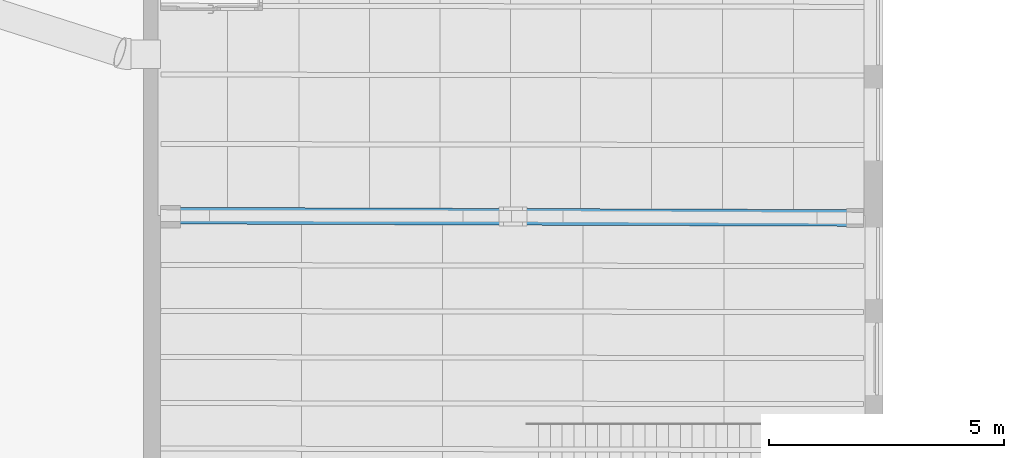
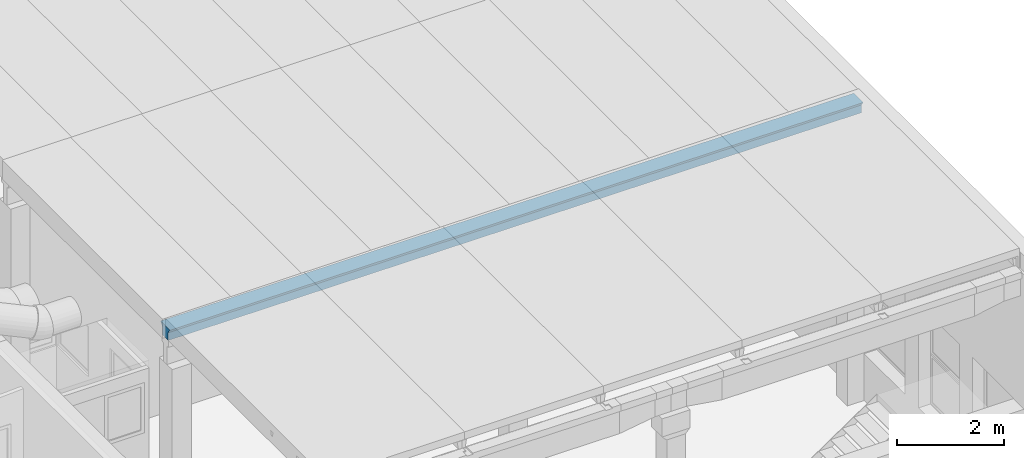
# One storey, part 121 of 301: 1 wall.
"""IFC2X3 building model written with IfcOpenShell, lengths in millimetres."""

from ifc_helpers import new_model, entity, si_unit, converted_unit, derived_unit, money_unit, direction, frame, origin_with_axes, place, context, subcontext, project, spatial, faceted_brep, material, type_object, element, save


model = new_model("IFC2X3")

# Units and contexts
model_context = context("Model", 3, precision=0.01, world=origin_with_axes(), true_north=direction((0.0, 1.0)))
body_context = subcontext(model_context, "Body", "Model", "MODEL_VIEW")
ifc_project = project(units=[si_unit("LENGTHUNIT", "METRE", prefix="MILLI"), si_unit("AREAUNIT", "SQUARE_METRE"), si_unit("VOLUMEUNIT", "CUBIC_METRE"), converted_unit("PLANEANGLEUNIT", "DEGREE", entity("IfcPlaneAngleMeasure", 0.0174532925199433), si_unit("PLANEANGLEUNIT", "RADIAN"), dimensions=[0, 0, 0, 0, 0, 0, 0]), money_unit("EUR"), converted_unit("TIMEUNIT", "Year", entity("IfcTimeMeasure", 31557600.0), si_unit("TIMEUNIT", "SECOND"), dimensions=[0, 0, 1, 0, 0, 0, 0]), si_unit("MASSUNIT", "GRAM", prefix="KILO"), si_unit("THERMODYNAMICTEMPERATUREUNIT", "DEGREE_CELSIUS"), si_unit("LUMINOUSINTENSITYUNIT", "LUMEN"), si_unit("ENERGYUNIT", "JOULE", prefix="MEGA"), derived_unit("THERMALCONDUCTANCEUNIT", [(si_unit("POWERUNIT", "WATT"), 1), (si_unit("LENGTHUNIT", "METRE"), -1), (si_unit("THERMODYNAMICTEMPERATUREUNIT", "KELVIN"), -1)]), derived_unit("SPECIFICHEATCAPACITYUNIT", [(si_unit("ENERGYUNIT", "JOULE"), 1), (si_unit("MASSUNIT", "GRAM", prefix="KILO"), -1), (si_unit("THERMODYNAMICTEMPERATUREUNIT", "KELVIN"), -1)]), derived_unit("MASSDENSITYUNIT", [(si_unit("MASSUNIT", "GRAM", prefix="KILO"), 1), (si_unit("VOLUMEUNIT", "CUBIC_METRE"), -1)])], contexts=[model_context])

# Site, building, storey
site_placement = place(None, frame((0.0, 0.0, 8650.0), z_axis=(0.0, 0.0, 1.0), x_axis=(1.0, 0.0, 0.0)))
site = spatial("IfcSite", under=ifc_project, at=site_placement, Name="43301:001:0844", CompositionType="ELEMENT")
building_placement = place(site_placement, origin_with_axes())
building = spatial("IfcBuilding", under=site, at=building_placement, Name="Kuressaare Ametikooli tuulikute mehaanikute õppekorpus", CompositionType="ELEMENT")
storey_placement = place(building_placement, origin_with_axes())
storey = spatial("IfcBuildingStorey", under=building, at=storey_placement, Name="1.korrus", CompositionType="ELEMENT", Elevation=0.0)

# Wall
ifc_material = material(Name="GENEERILINE - KONSTRUKTRIOON")
wall_type = type_object("IfcWallType", Name="Precast Single Tee 3 356 x 275", PredefinedType="NOTDEFINED")
wall_placement = place(storey_placement, frame((88258.75644683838, 44086.36068963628, 6931.0), z_axis=(0.0, 0.0, 1.0), x_axis=(-0.003389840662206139, -0.999994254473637, 0.0)))
element("IfcWall", 1, at=wall_placement, inside=storey, type_object=wall_type, material=ifc_material, context=body_context, shape_type="Brep", body=[
    faceted_brep([(109.5797971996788, 0.0, -97.60896852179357), (109.5797971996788, 14968.86456659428, -97.60896852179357), (135.1717868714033, 14968.86456659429, -52.54830876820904), (135.1717868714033, 0.0, -52.54830876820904), (109.5792594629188, 0.0, -275.17670986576), (109.5792594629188, 14968.86456659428, -275.17670986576), (-109.5792594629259, 14968.86456659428, -275.17670986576), (-109.5797971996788, 14968.86456659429, -97.60896852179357), (-135.1717868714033, 14968.86456659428, -52.54830876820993), (-166.8442636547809, 14968.86456659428, -11.53285793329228), (-177.8068114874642, 14968.86456659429, 0.0), (177.8068114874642, 14968.86456659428, 0.0), (166.8442636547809, 14968.86456659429, -11.5328579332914), (166.8442636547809, 0.0, -11.5328579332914), (177.8068114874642, 0.0, 0.0), (-177.8068114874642, 0.0, 0.0), (-166.8442636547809, 0.0, -11.53285793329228), (-135.1717868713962, 0.0, -52.54830876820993), (-109.5797971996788, 0.0, -97.60896852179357), (-109.5792594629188, 0.0, -275.17670986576)], [[[0, 1, 2, 3]], [[4, 5, 1, 0]], [[2, 1, 5, 6, 7, 8, 9, 10, 11, 12]], [[3, 2, 12, 13]], [[4, 0, 3, 13, 14, 15, 16, 17, 18, 19]], [[19, 6, 5, 4]], [[18, 7, 6, 19]], [[17, 8, 7, 18]], [[16, 9, 8, 17]], [[15, 10, 9, 16]], [[14, 11, 10, 15]], [[13, 12, 11, 14]]]),
])

save(model, "model.ifc")
